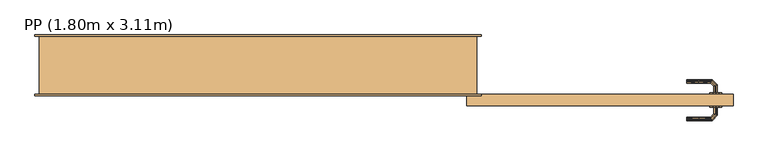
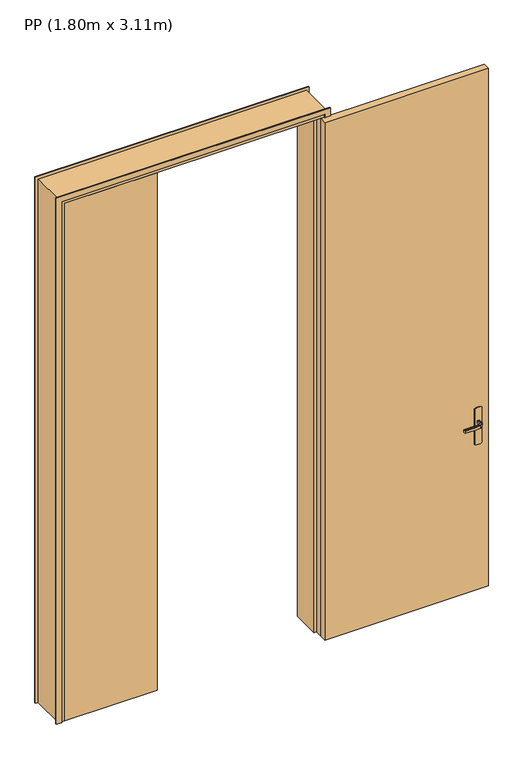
"""IFC4 building model written with IfcOpenShell, lengths in millimetres: door geometry, PP (1.80m x 3.11m)."""

from ifc_helpers import new_model, si_unit, frame, origin, origin_with_axes, place, context, project, spatial, polyline, outline, extrude, faceted_brep, source, transform, mapped, element, save


def pp_1_80m_x_3_11m_21de18fd(model_context):
    return source(origin(), model_context, "Body", "SolidModel", [
        extrude(outline(polyline([(2465.0, -40.0), (1545.0, -40.0), (1545.0, 0.0), (2465.0, 0.0), (2465.0, -40.0)])), origin_with_axes(), (0.0, 0.0, 1.0), 3075.0),
        extrude(outline(polyline([(0.0, 1595.0), (3125.0, 1595.0), (3125.0, 55.0), (0.0, 55.0), (0.0, 85.0), (3095.0, 85.0), (3095.0, 1565.0), (0.0, 1565.0), (0.0, 1595.0)])), frame((0.0, -5.0, 0.0), z_axis=(0.0, 1.0, 0.0), x_axis=(0.0, 0.0, 1.0)), (0.0, 0.0, 1.0), 5.0),
        extrude(outline(polyline([(1083.9960169, 2394.6472382), (1080.0, 2385.0), (870.0, 2385.0), (866.0039831, 2394.6472382), (864.6410162, 2405.0), (866.0039831, 2415.3527618), (870.0, 2425.0), (1080.0, 2425.0), (1083.9960169, 2415.3527618), (1085.3589838, 2405.0), (1083.9960169, 2394.6472382)])), frame((0.0, -45.0, 0.0), z_axis=(0.0, 1.0, 0.0), x_axis=(0.0, 0.0, 1.0)), (0.0, 0.0, 1.0), 5.0),
        extrude(outline(polyline([(105.0, 0.0), (105.0, 40.0), (625.0, 40.0), (625.0, 0.0), (105.0, 0.0)])), origin_with_axes(), (0.0, 0.0, 1.0), 3075.0),
        faceted_brep([(2407.0252987, 5.0, 1007.7804408), (2402.9747013, 5.0, 1007.7804408), (2399.0, 5.0, 1007.0), (2399.0, 5.0, 993.0), (2402.9747013, 5.0, 992.2195592), (2407.0252987, 5.0, 992.2195592), (2411.0, 5.0, 993.0), (2411.0, 5.0, 1007.0), (2411.0, 32.6509507, 1007.0), (2407.0252987, 31.0045755, 1007.7804408), (2390.9764148, 47.0534593, 1007.7804408), (2389.2986025, 43.002862, 1007.7804408), (2402.9747013, 29.3267632, 1007.7804408), (2399.0, 27.680388, 1007.0), (2399.0, 27.680388, 993.0), (2402.9747013, 29.3267632, 992.2195592), (2389.2986025, 43.002862, 992.2195592), (2390.9764148, 47.0534593, 992.2195592), (2407.0252987, 31.0045755, 992.2195592), (2411.0, 32.6509507, 993.0), (2392.62279, 51.0281607, 1007.0), (2387.6522273, 39.0281607, 1007.0), (2387.6522273, 39.0281607, 993.0), (2392.62279, 51.0281607, 993.0), (2304.9813594, 51.0281607, 993.0), (2304.9813594, 47.0534593, 992.2195592), (2304.9813594, 43.002862, 992.2195592), (2304.9813594, 39.0281607, 993.0), (2304.9813594, 39.0281607, 1007.0), (2304.9813594, 43.002862, 1007.7804408), (2304.9813594, 47.0534593, 1007.7804408), (2304.9813594, 51.0281607, 1007.0), (2352.6923028, 51.0281607, 1007.0), (2347.1399809, 45.0281607, 1007.8786868), (2346.3167933, 39.0281607, 1007.0), (2346.3167933, 39.0281607, 993.0), (2347.1399811, 45.0281608, 992.1213132), (2352.6922998, 51.0281607, 993.0)], [[[0, 1, 2, 3, 4, 5, 6, 7]], [[8, 9, 0, 7]], [[9, 10, 11, 12, 1, 0]], [[12, 13, 2, 1]], [[3, 2, 13, 14]], [[14, 15, 4, 3]], [[15, 16, 17, 18, 5, 4]], [[18, 19, 6, 5]], [[7, 6, 19, 8]], [[20, 10, 9, 8]], [[11, 21, 13, 12]], [[14, 13, 21, 22]], [[22, 16, 15, 14]], [[17, 23, 19, 18]], [[8, 19, 23, 20]], [[24, 25, 26, 27, 28, 29, 30, 31]], [[32, 30, 33]], [[31, 30, 32]], [[10, 20, 32]], [[33, 34, 11]], [[21, 11, 34]], [[34, 29, 28]], [[30, 29, 33]], [[29, 34, 33]], [[10, 32, 33]], [[10, 33, 11]], [[22, 21, 34, 28, 27, 35]], [[35, 26, 36]], [[37, 36, 25]], [[22, 35, 16]], [[35, 27, 26]], [[24, 37, 25]], [[23, 17, 37]], [[37, 17, 36]], [[17, 16, 36]], [[16, 35, 36]], [[25, 36, 26]], [[20, 23, 37, 24, 31, 32]]]),
        extrude(outline(polyline([(0.0, 1595.0), (3125.0, 1595.0), (3125.0, 55.0), (0.0, 55.0), (0.0, 85.0), (3095.0, 85.0), (3095.0, 1565.0), (0.0, 1565.0), (0.0, 1595.0)])), frame((0.0, 200.0, 0.0), z_axis=(0.0, 1.0, 0.0), x_axis=(0.0, 0.0, 1.0)), (0.0, 0.0, 1.0), 5.0),
        faceted_brep([(1580.0, 0.0, 0.0), (1545.0, 0.0, 0.0), (1545.0, 40.0, 0.0), (1530.0, 40.0, 0.0), (1530.0, 200.0, 0.0), (1580.0, 200.0, 0.0), (1580.0, 200.0, 3110.0), (1580.0, 0.0, 3110.0), (1530.0, 200.0, 3060.0), (120.0, 200.0, 3060.0), (120.0, 200.0, 0.0), (70.0, 200.0, 0.0), (70.0, 200.0, 3110.0), (1530.0, 40.0, 3060.0), (1545.0, 40.0, 3075.0), (105.0, 40.0, 3075.0), (105.0, 40.0, 0.0), (120.0, 40.0, 0.0), (120.0, 40.0, 3060.0), (1545.0, 0.0, 3075.0), (70.0, 0.0, 3110.0), (70.0, 0.0, 0.0), (105.0, 0.0, 0.0), (105.0, 0.0, 3075.0)], [[[0, 1, 2, 3, 4, 5]], [[5, 6, 7, 0]], [[4, 8, 9, 10, 11, 12, 6, 5]], [[3, 13, 8, 4]], [[2, 14, 15, 16, 17, 18, 13, 3]], [[1, 19, 14, 2]], [[0, 7, 20, 21, 22, 23, 19, 1]], [[12, 11, 21, 20]], [[21, 11, 10, 17, 16, 22]], [[18, 17, 10, 9]], [[23, 22, 16, 15]], [[6, 12, 20, 7]], [[13, 18, 9, 8]], [[19, 23, 15, 14]]]),
        extrude(outline(polyline([(1083.9960169, 2394.6472382), (1080.0, 2385.0), (870.0, 2385.0), (866.0039831, 2394.6472382), (864.6410162, 2405.0), (866.0039831, 2415.3527618), (870.0, 2425.0), (1080.0, 2425.0), (1083.9960169, 2415.3527618), (1085.3589838, 2405.0), (1083.9960169, 2394.6472382)])), frame((0.0, 0.0, 0.0), z_axis=(0.0, 1.0, 0.0), x_axis=(0.0, 0.0, 1.0)), (0.0, 0.0, 1.0), 5.0),
        faceted_brep([(2407.0252987, -45.0, 1007.7804408), (2411.0, -45.0, 1007.0), (2411.0, -45.0, 993.0), (2407.0252987, -45.0, 992.2195592), (2402.9747013, -45.0, 992.2195592), (2399.0, -45.0, 993.0), (2399.0, -45.0, 1007.0), (2402.9747013, -45.0, 1007.7804408), (2399.0, -67.4852045, 993.0), (2399.0, -67.4852045, 1007.0), (2402.9747013, -69.1315797, 1007.7804408), (2389.1610938, -82.9451872, 1007.7804408), (2390.8389062, -86.9957845, 1007.7804408), (2407.0252987, -70.8093921, 1007.7804408), (2411.0, -72.4557673, 1007.0), (2411.0, -72.4557673, 993.0), (2407.0252987, -70.8093921, 992.2195592), (2390.8389062, -86.9957845, 992.2195592), (2389.1610938, -82.9451872, 992.2195592), (2402.9747013, -69.1315797, 992.2195592), (2387.5147186, -78.9704859, 993.0), (2387.5147186, -78.9704859, 1007.0), (2392.4852814, -90.9704859, 1007.0), (2392.4852814, -90.9704859, 993.0), (2304.9542163, -78.9704859, 993.0), (2304.9542163, -82.9451872, 992.2195592), (2304.9542163, -86.9957845, 992.2195592), (2304.9542163, -90.9704859, 993.0), (2304.9542163, -90.9704859, 1007.0), (2304.9542163, -86.9957845, 1007.7804408), (2304.9542163, -82.9451872, 1007.7804408), (2304.9542163, -78.9704859, 1007.0), (2346.2344794, -78.9704859, 993.0), (2346.2344675, -78.9704859, 1007.0), (2347.0576551, -84.9704859, 1007.8786868), (2352.5547942, -90.9704859, 1007.0), (2352.5547957, -90.9704859, 993.0), (2347.0576549, -84.9704858, 992.1213132)], [[[0, 1, 2, 3, 4, 5, 6, 7]], [[6, 5, 8, 9]], [[9, 10, 7, 6]], [[10, 11, 12, 13, 0, 7]], [[13, 14, 1, 0]], [[2, 1, 14, 15]], [[15, 16, 3, 2]], [[16, 17, 18, 19, 4, 3]], [[19, 8, 5, 4]], [[9, 8, 20, 21]], [[21, 11, 10, 9]], [[12, 22, 14, 13]], [[15, 14, 22, 23]], [[23, 17, 16, 15]], [[18, 20, 8, 19]], [[24, 25, 26, 27, 28, 29, 30, 31]], [[21, 20, 32, 24, 31, 33]], [[33, 30, 34]], [[35, 34, 29]], [[21, 33, 11]], [[33, 31, 30]], [[28, 35, 29]], [[22, 12, 35]], [[35, 12, 34]], [[12, 11, 34]], [[11, 33, 34]], [[29, 34, 30]], [[22, 35, 28, 27, 36, 23]], [[36, 26, 37]], [[27, 26, 36]], [[17, 23, 36]], [[37, 32, 18]], [[20, 18, 32]], [[32, 25, 24]], [[26, 25, 37]], [[25, 32, 37]], [[17, 36, 37]], [[17, 37, 18]]]),
    ])


if __name__ == "__main__":
    model = new_model("IFC4")
    model_context = context("Model", 3, world=origin())
    ifc_project = project(units=[si_unit("LENGTHUNIT", "METRE", prefix="MILLI")], contexts=[model_context])
    site = spatial("IfcSite", under=ifc_project)
    building = spatial("IfcBuilding", under=site)
    placement = place(None, origin())
    pp_1_80m_x_3_11m_shape = pp_1_80m_x_3_11m_21de18fd(model_context)
    element("IfcDoor", 1, ObjectType="PP (1.80m x 3.11m)", at=placement, inside=building, context=model_context, shape_type="MappedRepresentation", body=[
        mapped(pp_1_80m_x_3_11m_shape, transform((0.0, 0.0, 0.0), x_axis=(1.0, 0.0, 0.0), y_axis=(0.0, 1.0, 0.0), z_axis=(0.0, 0.0, 1.0))),
    ])
    save(model, "model.ifc")
